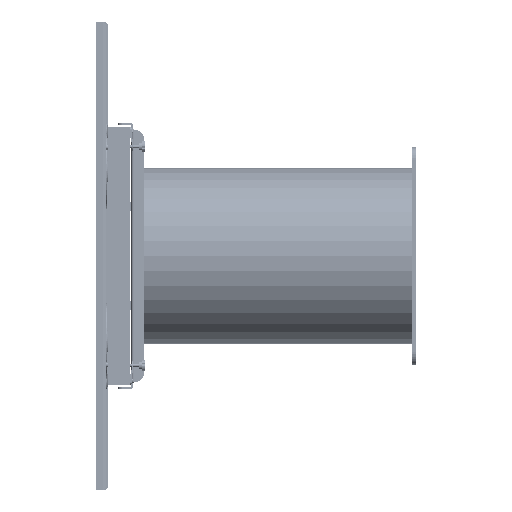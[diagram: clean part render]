
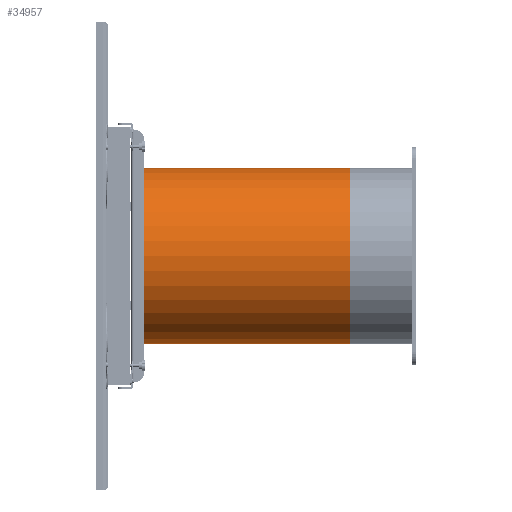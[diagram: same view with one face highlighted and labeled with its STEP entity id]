
A CAD part, left-side view. The second image highlights one B-rep face of the part: STEP entity #34957.
In plain terms, the highlighted cylindrical face has radius 200 mm (diameter 400 mm), a partial arc.
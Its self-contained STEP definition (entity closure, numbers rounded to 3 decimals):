
#1099 = CYLINDRICAL_SURFACE ( 'NONE', #31709, 200. ) ;
#1460 = CARTESIAN_POINT ( 'NONE',  ( 0., 630., -200. ) ) ;
#8748 = LINE ( 'NONE', #20188, #36510 ) ;
#11455 = LINE ( 'NONE', #1460, #32932 ) ;
#13536 = DIRECTION ( 'NONE',  ( 0., 1., 0. ) ) ;
#14386 = EDGE_CURVE ( 'NONE', #70279, #16296, #8748, .T. ) ;
#14493 = AXIS2_PLACEMENT_3D ( 'NONE', #54574, #13536, #48654 ) ;
#16296 = VERTEX_POINT ( 'NONE', #68704 ) ;
#17725 = CARTESIAN_POINT ( 'NONE',  ( 0., 630., 0. ) ) ;
#19261 = ORIENTED_EDGE ( 'NONE', *, *, #32163, .T. ) ;
#20188 = CARTESIAN_POINT ( 'NONE',  ( 0., 630., 200. ) ) ;
#20966 = AXIS2_PLACEMENT_3D ( 'NONE', #49606, #49248, #65871 ) ;
#22653 = CARTESIAN_POINT ( 'NONE',  ( 0., 630., -200. ) ) ;
#23601 = EDGE_LOOP ( 'NONE', ( #55813, #32443, #38693, #19261 ) ) ;
#23616 = DIRECTION ( 'NONE',  ( 0., -1., 0. ) ) ;
#24636 = DIRECTION ( 'NONE',  ( 0., -1., 0. ) ) ;
#31709 = AXIS2_PLACEMENT_3D ( 'NONE', #17725, #23616, #40632 ) ;
#32163 = EDGE_CURVE ( 'NONE', #63240, #16296, #52831, .T. ) ;
#32443 = ORIENTED_EDGE ( 'NONE', *, *, #53703, .F. ) ;
#32932 = VECTOR ( 'NONE', #52105, 1000. ) ;
#34864 = EDGE_CURVE ( 'NONE', #68013, #63240, #11455, .T. ) ;
#34957 = ADVANCED_FACE ( 'NONE', ( #45823 ), #1099, .T. ) ;
#36510 = VECTOR ( 'NONE', #24636, 1000. ) ;
#38693 = ORIENTED_EDGE ( 'NONE', *, *, #34864, .T. ) ;
#40632 = DIRECTION ( 'NONE',  ( 0., 0., -1. ) ) ;
#41681 = CARTESIAN_POINT ( 'NONE',  ( 0., 140., -200. ) ) ;
#45823 = FACE_OUTER_BOUND ( 'NONE', #23601, .T. ) ;
#48654 = DIRECTION ( 'NONE',  ( 0., 0., 1. ) ) ;
#49248 = DIRECTION ( 'NONE',  ( 0., 1., 0. ) ) ;
#49606 = CARTESIAN_POINT ( 'NONE',  ( 0., 140., 0. ) ) ;
#52105 = DIRECTION ( 'NONE',  ( 0., -1., 0. ) ) ;
#52831 = CIRCLE ( 'NONE', #20966, 200. ) ;
#53703 = EDGE_CURVE ( 'NONE', #68013, #70279, #60527, .T. ) ;
#54574 = CARTESIAN_POINT ( 'NONE',  ( 0., 630., 0. ) ) ;
#55813 = ORIENTED_EDGE ( 'NONE', *, *, #14386, .F. ) ;
#60527 = CIRCLE ( 'NONE', #14493, 200. ) ;
#63240 = VERTEX_POINT ( 'NONE', #41681 ) ;
#65871 = DIRECTION ( 'NONE',  ( 0., 0., 1. ) ) ;
#68013 = VERTEX_POINT ( 'NONE', #22653 ) ;
#68284 = CARTESIAN_POINT ( 'NONE',  ( 0., 630., 200. ) ) ;
#68704 = CARTESIAN_POINT ( 'NONE',  ( 0., 140., 200. ) ) ;
#70279 = VERTEX_POINT ( 'NONE', #68284 ) ;
